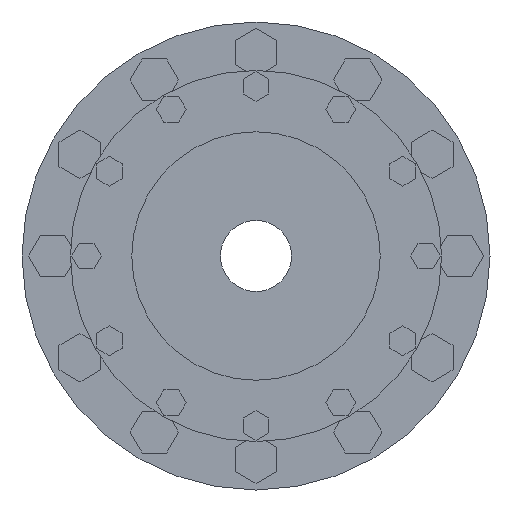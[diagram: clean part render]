
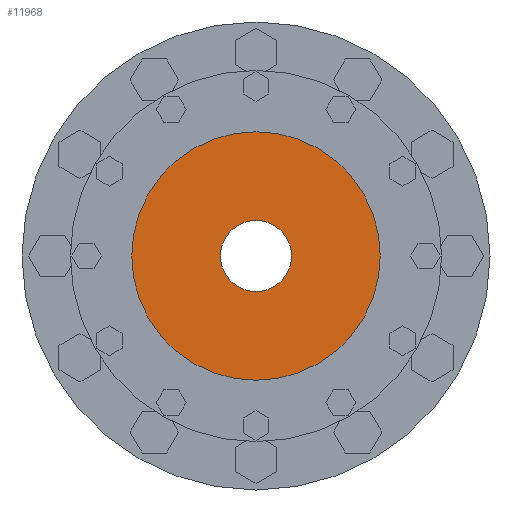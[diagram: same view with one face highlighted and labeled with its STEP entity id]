
A CAD part, left-side view. The second image highlights one B-rep face of the part: STEP entity #11968.
In plain terms, the highlighted planar face has unit normal (-1, 0, 0).
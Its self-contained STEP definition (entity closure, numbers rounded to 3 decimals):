
#11666=CARTESIAN_POINT('',(-72.5,0.,0.));
#11667=DIRECTION('',(1.,0.,0.));
#11668=DIRECTION('',(0.,1.,0.));
#11669=AXIS2_PLACEMENT_3D('',#11666,#11667,#11668);
#11745=CARTESIAN_POINT('',(-72.5,0.,0.));
#11746=DIRECTION('',(-1.,0.,0.));
#11747=DIRECTION('',(0.,1.,0.));
#11748=AXIS2_PLACEMENT_3D('',#11745,#11746,#11747);
#11750=CARTESIAN_POINT('',(-72.5,0.,0.));
#11751=DIRECTION('',(1.,0.,0.));
#11752=DIRECTION('',(0.,1.,0.));
#11753=AXIS2_PLACEMENT_3D('',#11750,#11751,#11752);
#11764=CARTESIAN_POINT('',(-72.5,0.,0.));
#11765=DIRECTION('',(-1.,0.,0.));
#11766=DIRECTION('',(0.,1.,0.));
#11767=AXIS2_PLACEMENT_3D('',#11764,#11765,#11766);
#11773=CARTESIAN_POINT('',(-72.5,11.,0.));
#11774=CARTESIAN_POINT('',(-72.5,-11.,0.));
#11775=VERTEX_POINT('',#11773);
#11776=VERTEX_POINT('',#11774);
#11777=CARTESIAN_POINT('',(-72.5,38.5,0.));
#11778=CARTESIAN_POINT('',(-72.5,-38.5,0.));
#11779=VERTEX_POINT('',#11777);
#11780=VERTEX_POINT('',#11778);
#11954=CARTESIAN_POINT('',(-72.5,0.,0.));
#11955=DIRECTION('',(1.,0.,0.));
#11956=DIRECTION('',(0.,-1.,0.));
#11957=AXIS2_PLACEMENT_3D('',#11954,#11955,#11956);
#11958=PLANE('',#11957);
#11959=ORIENTED_EDGE('',*,*,#11936,.F.);
#11960=ORIENTED_EDGE('',*,*,#11949,.T.);
#11961=EDGE_LOOP('',(#11959,#11960));
#11962=FACE_OUTER_BOUND('',#11961,.F.);
#11963=ORIENTED_EDGE('',*,*,#11814,.F.);
#11965=ORIENTED_EDGE('',*,*,#11964,.T.);
#11966=EDGE_LOOP('',(#11963,#11965));
#11967=FACE_BOUND('',#11966,.F.);
#11968=ADVANCED_FACE('',(#11962,#11967),#11958,.F.);
#11670=CIRCLE('',#11669,11.);
#11749=CIRCLE('',#11748,38.5);
#11754=CIRCLE('',#11753,38.5);
#11768=CIRCLE('',#11767,11.);
#11814=EDGE_CURVE('',#11775,#11776,#11670,.T.);
#11936=EDGE_CURVE('',#11779,#11780,#11749,.T.);
#11949=EDGE_CURVE('',#11779,#11780,#11754,.T.);
#11964=EDGE_CURVE('',#11775,#11776,#11768,.T.);
